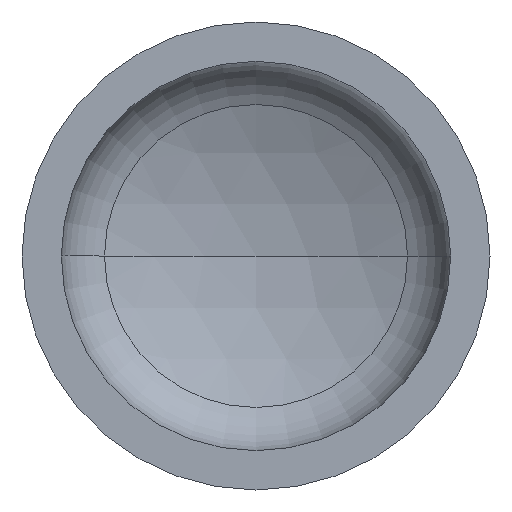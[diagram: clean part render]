
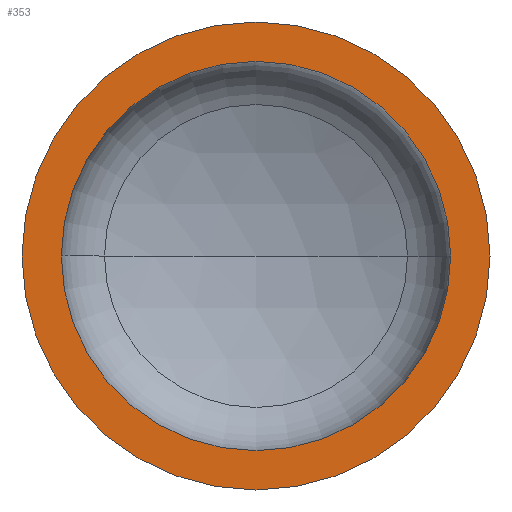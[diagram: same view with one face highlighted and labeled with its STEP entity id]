
A CAD part, front view. The second image highlights one B-rep face of the part: STEP entity #353.
In plain terms, the highlighted planar face has unit normal (0, -1, 0).
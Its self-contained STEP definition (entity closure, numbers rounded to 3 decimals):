
#1 = AXIS2_PLACEMENT_3D ( 'NONE', #55, #288, #386 ) ;
#13 = AXIS2_PLACEMENT_3D ( 'NONE', #223, #97, #98 ) ;
#15 = EDGE_LOOP ( 'NONE', ( #196, #126 ) ) ;
#33 = AXIS2_PLACEMENT_3D ( 'NONE', #340, #337, #335 ) ;
#35 = AXIS2_PLACEMENT_3D ( 'NONE', #176, #177, #332 ) ;
#44 = VERTEX_POINT ( 'NONE', #293 ) ;
#55 = CARTESIAN_POINT ( 'NONE',  ( 0., 0., 0. ) ) ;
#56 = EDGE_CURVE ( 'NONE', #362, #218, #216, .T. ) ;
#58 = EDGE_CURVE ( 'NONE', #203, #44, #114, .T. ) ;
#68 = DIRECTION ( 'NONE',  ( 1., 0., 0. ) ) ;
#89 = EDGE_LOOP ( 'NONE', ( #179, #286 ) ) ;
#91 = CARTESIAN_POINT ( 'NONE',  ( 0., 0., 0. ) ) ;
#96 = DIRECTION ( 'NONE',  ( 0., -1., 0. ) ) ;
#97 = DIRECTION ( 'NONE',  ( 0., 1., 0. ) ) ;
#98 = DIRECTION ( 'NONE',  ( -1., 0., 0. ) ) ;
#114 = CIRCLE ( 'NONE', #33, 416. ) ;
#126 = ORIENTED_EDGE ( 'NONE', *, *, #56, .T. ) ;
#176 = CARTESIAN_POINT ( 'NONE',  ( 0., 0., 0. ) ) ;
#177 = DIRECTION ( 'NONE',  ( 0., -1., 0. ) ) ;
#179 = ORIENTED_EDGE ( 'NONE', *, *, #58, .F. ) ;
#196 = ORIENTED_EDGE ( 'NONE', *, *, #350, .T. ) ;
#203 = VERTEX_POINT ( 'NONE', #243 ) ;
#216 = CIRCLE ( 'NONE', #35, 500. ) ;
#218 = VERTEX_POINT ( 'NONE', #276 ) ;
#220 = FACE_OUTER_BOUND ( 'NONE', #15, .T. ) ;
#223 = CARTESIAN_POINT ( 'NONE',  ( -500., 0., 0. ) ) ;
#243 = CARTESIAN_POINT ( 'NONE',  ( 416., 0., 0. ) ) ;
#276 = CARTESIAN_POINT ( 'NONE',  ( 500., 0., 0. ) ) ;
#286 = ORIENTED_EDGE ( 'NONE', *, *, #331, .F. ) ;
#288 = DIRECTION ( 'NONE',  ( 0., -1., 0. ) ) ;
#293 = CARTESIAN_POINT ( 'NONE',  ( -416., 0., 0. ) ) ;
#331 = EDGE_CURVE ( 'NONE', #44, #203, #380, .T. ) ;
#332 = DIRECTION ( 'NONE',  ( 1., 0., 0. ) ) ;
#335 = DIRECTION ( 'NONE',  ( 1., 0., 0. ) ) ;
#337 = DIRECTION ( 'NONE',  ( 0., -1., 0. ) ) ;
#340 = CARTESIAN_POINT ( 'NONE',  ( 0., 0., 0. ) ) ;
#350 = EDGE_CURVE ( 'NONE', #218, #362, #359, .T. ) ;
#353 = ADVANCED_FACE ( 'NONE', ( #405, #220 ), #404, .F. ) ;
#359 = CIRCLE ( 'NONE', #374, 500. ) ;
#362 = VERTEX_POINT ( 'NONE', #376 ) ;
#374 = AXIS2_PLACEMENT_3D ( 'NONE', #91, #96, #68 ) ;
#376 = CARTESIAN_POINT ( 'NONE',  ( -500., 0., 0. ) ) ;
#380 = CIRCLE ( 'NONE', #1, 416. ) ;
#386 = DIRECTION ( 'NONE',  ( 1., 0., 0. ) ) ;
#404 = PLANE ( 'NONE',  #13 ) ;
#405 = FACE_BOUND ( 'NONE', #89, .T. ) ;
